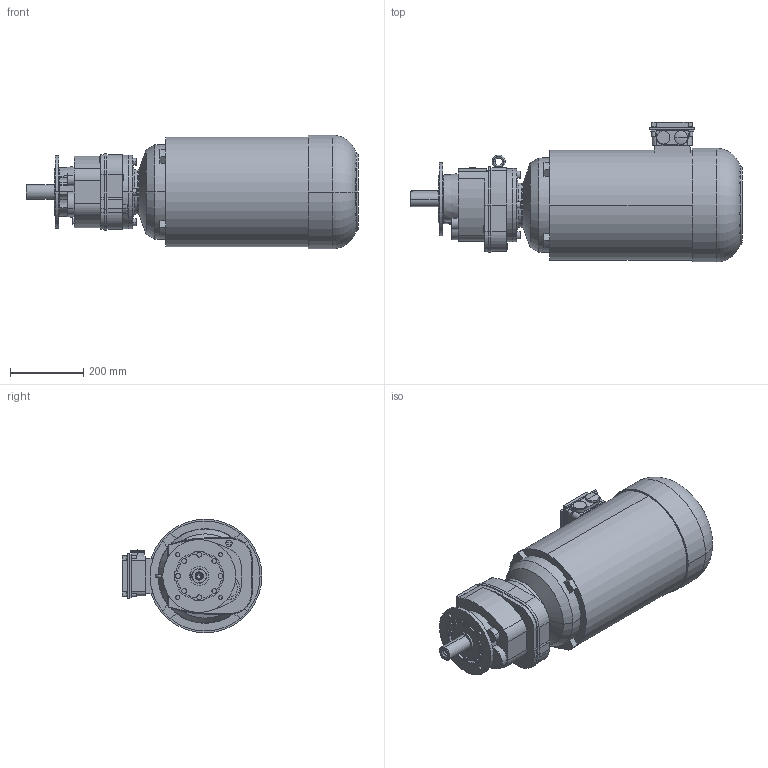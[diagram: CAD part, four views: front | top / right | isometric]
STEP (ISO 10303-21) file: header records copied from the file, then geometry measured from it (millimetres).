
FILE_DESCRIPTION(('STEP AP214'),'1');
FILE_NAME('STEP-File.stp','2018-01-01T00:00:00',(' '),('KEB'),' ','KEB-DRIVE',' ');
FILE_SCHEMA(('AUTOMOTIVE_DESIGN { 1 0 10303 214 1 1 1 1 }'));
Length unit declared in the file: millimetre
Products named in the file (10): g4b; w4_we_40x80; c4_200; cs4; dm160_kkn; kk10; PLUG_M32; SCREW-PLUG_M32; ndm160; G42C DM160MB4§CAD13
Assembly tree (9 placements, depth 2):
  G42C DM160MB4§CAD13
    g4b
    w4_we_40x80
    c4_200
    cs4
    dm160_kkn
    kk10
    PLUG_M32
    SCREW-PLUG_M32
    ndm160
Bounding box: 905.99 x 381.6 x 310 mm (x, y, z)
Volume: 48089119.7 mm3; surface area: 1352409.3 mm2
Topology: 9 solids, 9 shells, 411 faces, 1032 edges, 680 vertices
Faces by surface type: plane 219, cylinder 131, cone 36, torus 19, bspline 4, revolution 2
Entity records: 16479 total; most frequent: CARTESIAN_POINT 6677, ORIENTED_EDGE 2060, DIRECTION 1841, EDGE_CURVE 1030, VERTEX_POINT 680, AXIS2_PLACEMENT_3D 628, VECTOR 583, LINE 583
